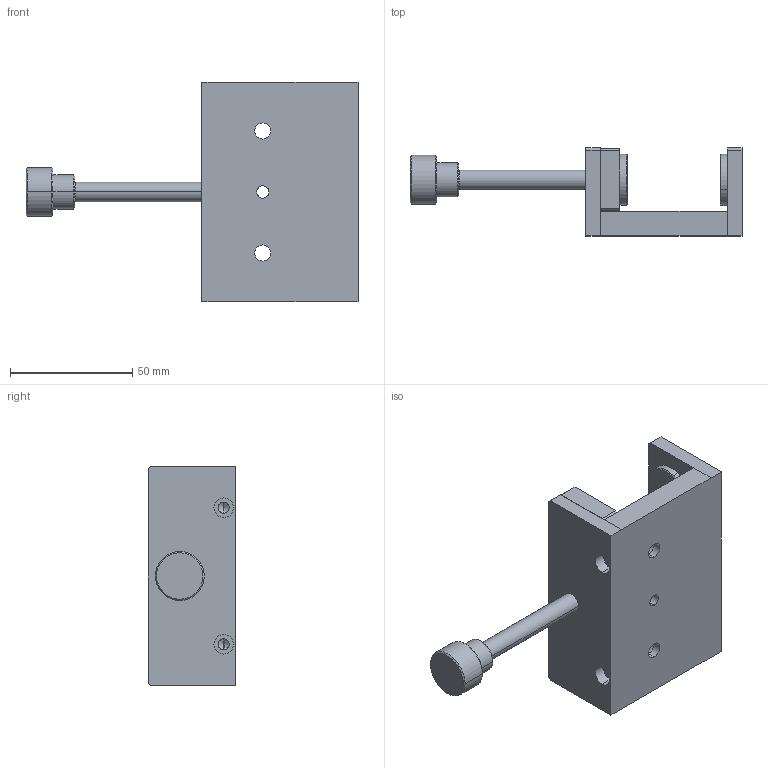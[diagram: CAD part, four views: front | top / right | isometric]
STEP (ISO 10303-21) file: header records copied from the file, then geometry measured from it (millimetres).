
FILE_DESCRIPTION (( 'STEP AP203' ), '1' );
FILE_NAME ('HGMMT306 肅奾補啣殤.STEP', '2020-01-04T09:57:59', ( 'Microsoft' ), ( 'Sky123.Org' ), 'SwSTEP 2.0', 'SolidWorks 2016', '' );
FILE_SCHEMA (( 'CONFIG_CONTROL_DESIGN' ));
Length unit declared in the file: millimetre
Products named in the file (1): HGMMT306 肅奾補啣殤
Bounding box: 136 x 36 x 90 mm (x, y, z)
Volume: 113566.2 mm3; surface area: 42308.8 mm2
Topology: 9 solids, 9 shells, 177 faces, 378 edges, 235 vertices
Faces by surface type: cylinder 82, plane 63, cone 32
Entity records: 4833 total; most frequent: DIRECTION 910, CARTESIAN_POINT 781, ORIENTED_EDGE 736, EDGE_CURVE 368, AXIS2_PLACEMENT_3D 364, VERTEX_POINT 235, EDGE_LOOP 219, CIRCLE 186
